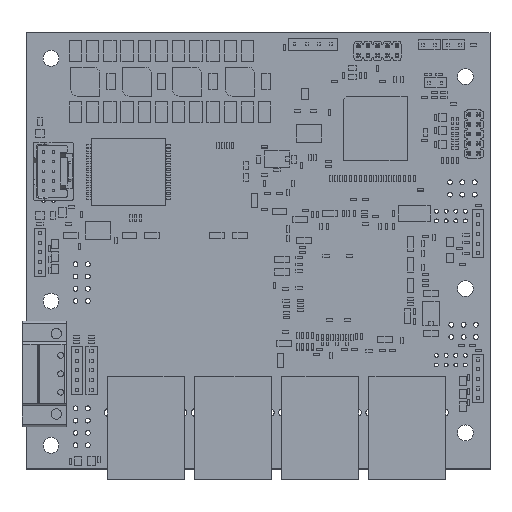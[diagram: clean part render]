
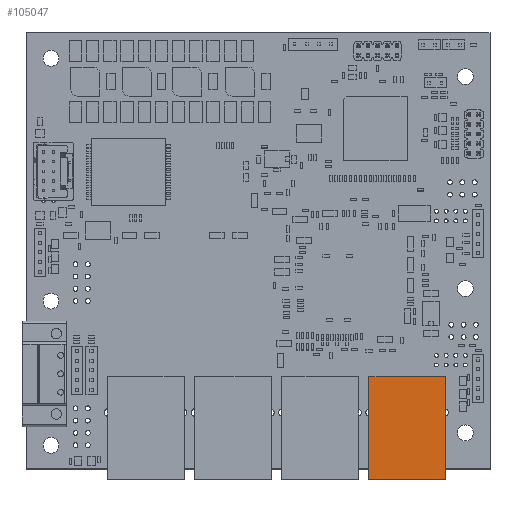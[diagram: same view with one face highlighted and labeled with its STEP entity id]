
A CAD part, top view. The second image highlights one B-rep face of the part: STEP entity #105047.
In plain terms, the highlighted planar face has unit normal (0, 0, 1) as drawn and (0, 1, 0) by its records, which use the part's own axes.
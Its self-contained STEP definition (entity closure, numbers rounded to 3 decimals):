
#101750 = PLANE('',#101751);
#101751 = AXIS2_PLACEMENT_3D('',#101752,#101753,#101754);
#101752 = CARTESIAN_POINT('',(7.95,13.6,-10.6));
#101753 = DIRECTION('',(-1.,0.,0.));
#101754 = DIRECTION('',(0.,0.,1.));
#101885 = PLANE('',#101886);
#101886 = AXIS2_PLACEMENT_3D('',#101887,#101888,#101889);
#101887 = CARTESIAN_POINT('',(-7.95,13.6,10.6));
#101888 = DIRECTION('',(0.,0.,-1.));
#101889 = DIRECTION('',(-1.,0.,0.));
#101913 = PLANE('',#101914);
#101914 = AXIS2_PLACEMENT_3D('',#101915,#101916,#101917);
#101915 = CARTESIAN_POINT('',(-7.95,13.6,-10.6));
#101916 = DIRECTION('',(1.,0.,0.));
#101917 = DIRECTION('',(0.,0.,-1.));
#102046 = PLANE('',#102047);
#102047 = AXIS2_PLACEMENT_3D('',#102048,#102049,#102050);
#102048 = CARTESIAN_POINT('',(-7.95,13.6,-10.6));
#102049 = DIRECTION('',(0.,0.,1.));
#102050 = DIRECTION('',(1.,0.,0.));
#102393 = VERTEX_POINT('',#102394);
#102394 = CARTESIAN_POINT('',(-7.95,13.6,-10.6));
#102415 = EDGE_CURVE('',#102416,#102393,#102418,.T.);
#102416 = VERTEX_POINT('',#102417);
#102417 = CARTESIAN_POINT('',(7.95,13.6,-10.6));
#102418 = SURFACE_CURVE('',#102419,(#102423,#102430),.PCURVE_S1.);
#102419 = LINE('',#102420,#102421);
#102420 = CARTESIAN_POINT('',(-7.95,13.6,-10.6));
#102421 = VECTOR('',#102422,1.);
#102422 = DIRECTION('',(-1.,0.,0.));
#102423 = PCURVE('',#102046,#102424);
#102424 = DEFINITIONAL_REPRESENTATION('',(#102425),#102429);
#102425 = LINE('',#102426,#102427);
#102426 = CARTESIAN_POINT('',(0.,0.));
#102427 = VECTOR('',#102428,1.);
#102428 = DIRECTION('',(-1.,0.));
#102429 = ( GEOMETRIC_REPRESENTATION_CONTEXT(2) 
PARAMETRIC_REPRESENTATION_CONTEXT() REPRESENTATION_CONTEXT('2D SPACE',''
  ) );
#102430 = PCURVE('',#102431,#102436);
#102431 = PLANE('',#102432);
#102432 = AXIS2_PLACEMENT_3D('',#102433,#102434,#102435);
#102433 = CARTESIAN_POINT('',(-7.95,13.6,10.6));
#102434 = DIRECTION('',(0.,1.,0.));
#102435 = DIRECTION('',(0.,0.,1.));
#102436 = DEFINITIONAL_REPRESENTATION('',(#102437),#102441);
#102437 = LINE('',#102438,#102439);
#102438 = CARTESIAN_POINT('',(-21.2,0.));
#102439 = VECTOR('',#102440,1.);
#102440 = DIRECTION('',(0.,-1.));
#102441 = ( GEOMETRIC_REPRESENTATION_CONTEXT(2) 
PARAMETRIC_REPRESENTATION_CONTEXT() REPRESENTATION_CONTEXT('2D SPACE',''
  ) );
#103460 = EDGE_CURVE('',#103461,#102416,#103463,.T.);
#103461 = VERTEX_POINT('',#103462);
#103462 = CARTESIAN_POINT('',(7.95,13.6,10.6));
#103463 = SURFACE_CURVE('',#103464,(#103468,#103475),.PCURVE_S1.);
#103464 = LINE('',#103465,#103466);
#103465 = CARTESIAN_POINT('',(7.95,13.6,-10.6));
#103466 = VECTOR('',#103467,1.);
#103467 = DIRECTION('',(0.,0.,-1.));
#103468 = PCURVE('',#101750,#103469);
#103469 = DEFINITIONAL_REPRESENTATION('',(#103470),#103474);
#103470 = LINE('',#103471,#103472);
#103471 = CARTESIAN_POINT('',(0.,0.));
#103472 = VECTOR('',#103473,1.);
#103473 = DIRECTION('',(-1.,0.));
#103474 = ( GEOMETRIC_REPRESENTATION_CONTEXT(2) 
PARAMETRIC_REPRESENTATION_CONTEXT() REPRESENTATION_CONTEXT('2D SPACE',''
  ) );
#103475 = PCURVE('',#102431,#103476);
#103476 = DEFINITIONAL_REPRESENTATION('',(#103477),#103481);
#103477 = LINE('',#103478,#103479);
#103478 = CARTESIAN_POINT('',(-21.2,15.9));
#103479 = VECTOR('',#103480,1.);
#103480 = DIRECTION('',(-1.,0.));
#103481 = ( GEOMETRIC_REPRESENTATION_CONTEXT(2) 
PARAMETRIC_REPRESENTATION_CONTEXT() REPRESENTATION_CONTEXT('2D SPACE',''
  ) );
#104099 = EDGE_CURVE('',#104100,#103461,#104102,.T.);
#104100 = VERTEX_POINT('',#104101);
#104101 = CARTESIAN_POINT('',(-7.95,13.6,10.6));
#104102 = SURFACE_CURVE('',#104103,(#104107,#104114),.PCURVE_S1.);
#104103 = LINE('',#104104,#104105);
#104104 = CARTESIAN_POINT('',(-7.95,13.6,10.6));
#104105 = VECTOR('',#104106,1.);
#104106 = DIRECTION('',(1.,0.,0.));
#104107 = PCURVE('',#101885,#104108);
#104108 = DEFINITIONAL_REPRESENTATION('',(#104109),#104113);
#104109 = LINE('',#104110,#104111);
#104110 = CARTESIAN_POINT('',(0.,0.));
#104111 = VECTOR('',#104112,1.);
#104112 = DIRECTION('',(-1.,0.));
#104113 = ( GEOMETRIC_REPRESENTATION_CONTEXT(2) 
PARAMETRIC_REPRESENTATION_CONTEXT() REPRESENTATION_CONTEXT('2D SPACE',''
  ) );
#104114 = PCURVE('',#102431,#104115);
#104115 = DEFINITIONAL_REPRESENTATION('',(#104116),#104120);
#104116 = LINE('',#104117,#104118);
#104117 = CARTESIAN_POINT('',(0.,0.));
#104118 = VECTOR('',#104119,1.);
#104119 = DIRECTION('',(0.,1.));
#104120 = ( GEOMETRIC_REPRESENTATION_CONTEXT(2) 
PARAMETRIC_REPRESENTATION_CONTEXT() REPRESENTATION_CONTEXT('2D SPACE',''
  ) );
#104466 = EDGE_CURVE('',#102393,#104100,#104467,.T.);
#104467 = SURFACE_CURVE('',#104468,(#104472,#104479),.PCURVE_S1.);
#104468 = LINE('',#104469,#104470);
#104469 = CARTESIAN_POINT('',(-7.95,13.6,-10.6));
#104470 = VECTOR('',#104471,1.);
#104471 = DIRECTION('',(0.,0.,1.));
#104472 = PCURVE('',#101913,#104473);
#104473 = DEFINITIONAL_REPRESENTATION('',(#104474),#104478);
#104474 = LINE('',#104475,#104476);
#104475 = CARTESIAN_POINT('',(0.,0.));
#104476 = VECTOR('',#104477,1.);
#104477 = DIRECTION('',(-1.,0.));
#104478 = ( GEOMETRIC_REPRESENTATION_CONTEXT(2) 
PARAMETRIC_REPRESENTATION_CONTEXT() REPRESENTATION_CONTEXT('2D SPACE',''
  ) );
#104479 = PCURVE('',#102431,#104480);
#104480 = DEFINITIONAL_REPRESENTATION('',(#104481),#104485);
#104481 = LINE('',#104482,#104483);
#104482 = CARTESIAN_POINT('',(-21.2,0.));
#104483 = VECTOR('',#104484,1.);
#104484 = DIRECTION('',(1.,0.));
#104485 = ( GEOMETRIC_REPRESENTATION_CONTEXT(2) 
PARAMETRIC_REPRESENTATION_CONTEXT() REPRESENTATION_CONTEXT('2D SPACE',''
  ) );
#105047 = ADVANCED_FACE('',(#105048),#102431,.T.);
#105048 = FACE_BOUND('',#105049,.T.);
#105049 = EDGE_LOOP('',(#105050,#105051,#105052,#105053));
#105050 = ORIENTED_EDGE('',*,*,#104466,.T.);
#105051 = ORIENTED_EDGE('',*,*,#104099,.T.);
#105052 = ORIENTED_EDGE('',*,*,#103460,.T.);
#105053 = ORIENTED_EDGE('',*,*,#102415,.T.);
